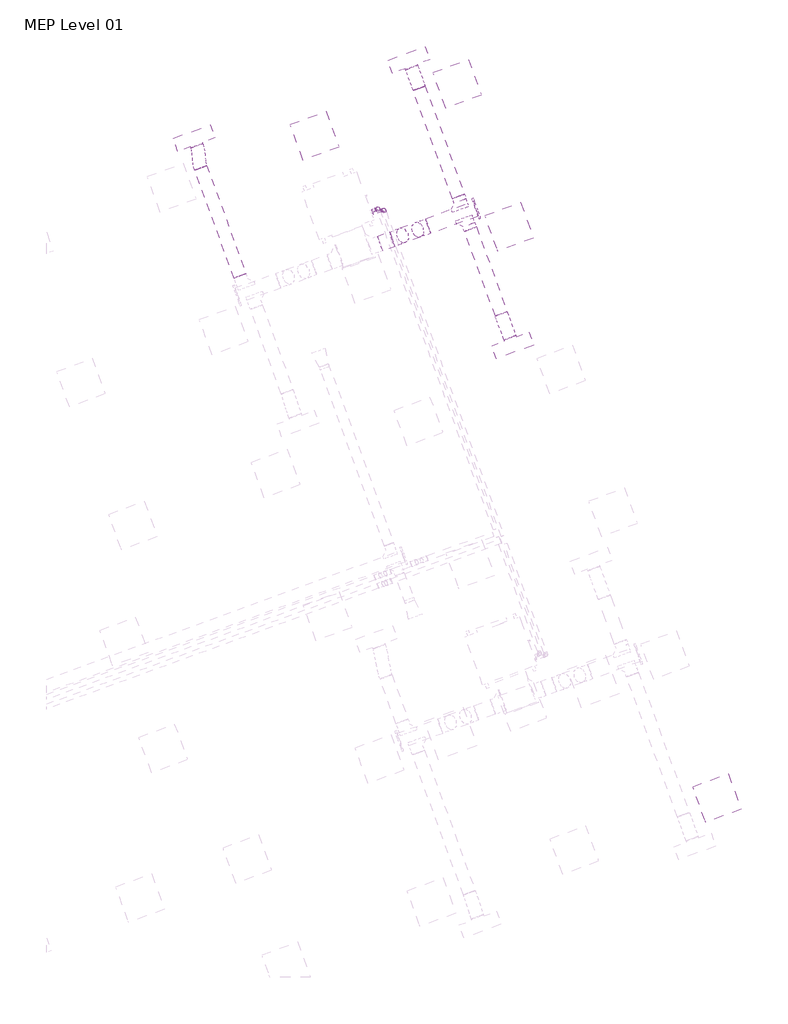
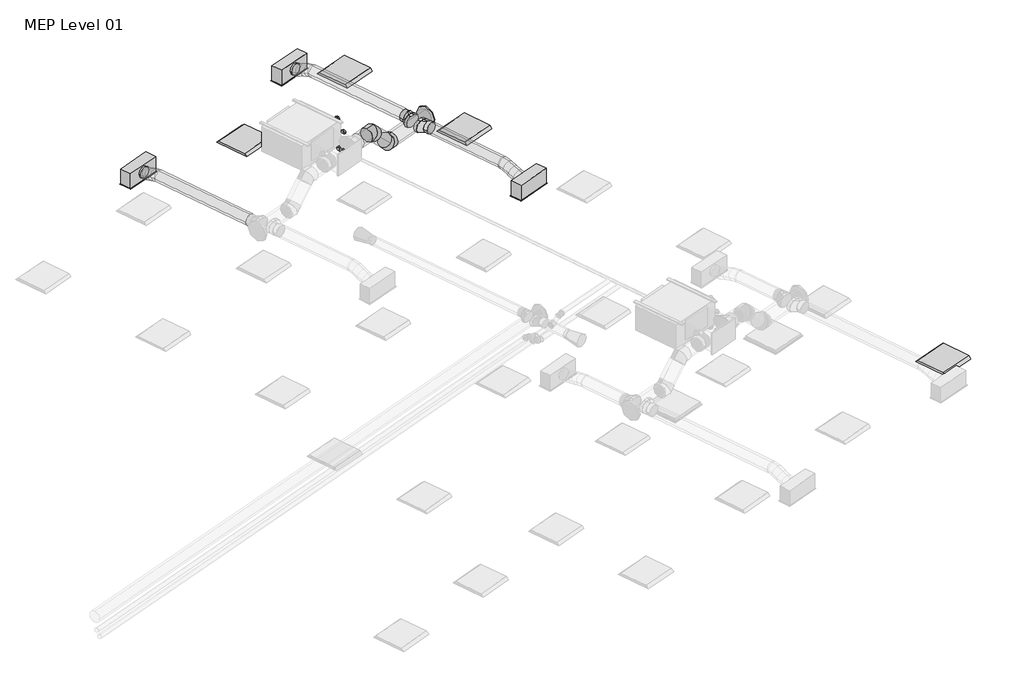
# One storey, part 29 of 29: 9 duct segments, 5 duct fittings, 4 light fixtures, 4 pipe fittings, 3 air terminals, 2 pipe segments.
"""IFC4 building model written with IfcOpenShell, lengths in millimetres."""

from ifc_helpers import new_model, si_unit, point, frame, frame_2d, origin, place, context, project, spatial, circle_curve, ellipse_curve, trimmed, segment, composite_curve, outline, extrude, transform, mapped, element, save
from ifc_brep_helpers import plane_surface, cylinder_surface, advanced_brep
from components import supply_diffuser_with_plenum_linear_slot_hosted_8c379eed, dw144_round_blank_end_standard_e3d0b58b, dw144_round_segmented_bend_slip_joint_standard_636bd9c1, dw144_round_shoe_branch_slip_joint_standard_15a2edd8, light_fixture_600x600_230_1c7c1157, light_fixture_600x600_230_b730b5ca, elbow_threaded_gmi_standard_b4aa7741

model = new_model("IFC4")

# Units and contexts
model_context = context("Model", 3, world=origin())
ifc_project = project(units=[si_unit("LENGTHUNIT", "METRE", prefix="MILLI")], contexts=[model_context])

# Site, building, storey
site = spatial("IfcSite", under=ifc_project)
building = spatial("IfcBuilding", under=site)
storey = spatial("IfcBuildingStorey", under=building, Name="MEP Level 01", Elevation=3900.0)

# Air terminals
placement = place(None, origin())
supply_diffuser_with_plenum_linear_slot_hosted_shape = supply_diffuser_with_plenum_linear_slot_hosted_8c379eed(model_context)
element("IfcAirTerminal", 1, ObjectType="Supply Diffuser with Plenum - Linear Slot - Hosted : 600mmx193.8mm-200 In Inlet  4-Slot", at=placement, inside=storey, context=model_context, shape_type="MappedRepresentation", body=[
    mapped(supply_diffuser_with_plenum_linear_slot_hosted_shape, transform((56030.8737895, 23328.4499742, 6700.0), x_axis=(-0.9396926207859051, -0.3420201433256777, 0.0), y_axis=(-0.3420201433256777, 0.9396926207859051, 0.0), z_axis=(0.0, 0.0, -1.0))),
])
element("IfcAirTerminal", 2, ObjectType="Supply Diffuser with Plenum - Linear Slot - Hosted : 600mmx193.8mm-200 In Inlet  4-Slot", at=placement, inside=storey, context=model_context, shape_type="MappedRepresentation", body=[
    mapped(supply_diffuser_with_plenum_linear_slot_hosted_shape, transform((59424.7616276, 24563.7241257, 6700.0), x_axis=(-0.9396926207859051, -0.3420201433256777, 0.0), y_axis=(-0.3420201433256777, 0.9396926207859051, 0.0), z_axis=(0.0, 0.0, -1.0))),
])
element("IfcAirTerminal", 3, ObjectType="Supply Diffuser with Plenum - Linear Slot - Hosted : 600mmx193.8mm-200 In Inlet  4-Slot", at=placement, inside=storey, context=model_context, shape_type="MappedRepresentation", body=[
    mapped(supply_diffuser_with_plenum_linear_slot_hosted_shape, transform((61066.4583156, 20053.199546, 6700.0), x_axis=(0.939692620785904, 0.342020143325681, 0.0), y_axis=(0.342020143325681, -0.939692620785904, 0.0), z_axis=(0.0, 0.0, -1.0))),
])

# Duct fittings
dw144_round_blank_end_standard_shape = dw144_round_blank_end_standard_e3d0b58b(model_context)
element("IfcDuctFitting", 4, ObjectType="DW144 Round Blank End : Standard", at=placement, inside=storey, context=model_context, shape_type="MappedRepresentation", body=[
    mapped(dw144_round_blank_end_standard_shape, transform((60480.0687344, 22212.6690304, 6972.2088531), x_axis=(0.9396926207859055, 0.3420201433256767, 0.0), y_axis=(-0.3420201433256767, 0.9396926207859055, 0.0), z_axis=(0.0, 0.0, 1.0))),
])
dw144_round_segmented_bend_slip_joint_standard_shape = dw144_round_segmented_bend_slip_joint_standard_636bd9c1(model_context)
element("IfcDuctFitting", 5, ObjectType="DW144 Round Segmented Bend - Slip Joint : Standard", at=placement, inside=storey, context=model_context, shape_type="MappedRepresentation", body=[
    mapped(dw144_round_segmented_bend_slip_joint_standard_shape, transform((59632.1186201, 21904.0404287, 6972.2088531), x_axis=(0.6644630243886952, 0.24184476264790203, -0.7071067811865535), y_axis=(0.6644630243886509, 0.2418447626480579, 0.7071067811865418), z_axis=(0.3420201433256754, -0.939692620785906, 0.0))),
])
element("IfcDuctFitting", 6, ObjectType="DW144 Round Segmented Bend - Slip Joint : Standard", at=placement, inside=storey, context=model_context, shape_type="MappedRepresentation", body=[
    mapped(dw144_round_segmented_bend_slip_joint_standard_shape, transform((59258.7165841, 21768.1332022, 7369.575), x_axis=(0.9396926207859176, 0.3420201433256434, 0.0), y_axis=(0.0, 0.0, -1.0), z_axis=(-0.3420201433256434, 0.9396926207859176, 0.0))),
])
dw144_round_shoe_branch_slip_joint_standard_shape = dw144_round_shoe_branch_slip_joint_standard_15a2edd8(model_context)
element("IfcDuctFitting", 7, ObjectType="DW144 Round Shoe Branch - Slip Joint : Standard", at=placement, inside=storey, context=model_context, shape_type="MappedRepresentation", body=[
    mapped(dw144_round_shoe_branch_slip_joint_standard_shape, transform((60261.0711331, 22265.9826437, 6972.2088531), x_axis=(-0.3420201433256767, 0.9396926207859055, 0.0), y_axis=(0.9396926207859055, 0.3420201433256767, 0.0), z_axis=(0.0, 0.0, -1.0))),
])
element("IfcDuctFitting", 8, ObjectType="DW144 Round Shoe Branch - Slip Joint : Standard", at=placement, inside=storey, context=model_context, shape_type="MappedRepresentation", body=[
    mapped(dw144_round_shoe_branch_slip_joint_standard_shape, transform((60346.5761689, 22031.0594885, 6972.2088531), x_axis=(0.3420201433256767, -0.9396926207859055, 0.0), y_axis=(0.9396926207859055, 0.3420201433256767, 0.0), z_axis=(0.0, 0.0, 1.0))),
])

# Duct segments
element("IfcDuctSegment", 9, ObjectType="DW144 Segmented Bend / Shoe Branch", at=placement, inside=storey, context=model_context, shape_type="SweptSolid", body=[
    extrude(outline(composite_curve([segment(trimmed(circle_curve(frame_2d((0.0, -125.0)), 125.0), [point((-125.0, -125.0))], [point((0.0, 0.0))], False, "CARTESIAN"), True, "CONTINUOUS"), segment(trimmed(circle_curve(frame_2d((0.0, -125.0)), 125.0), [point((0.0, 0.0))], [point((125.0, -125.0))], False, "CARTESIAN"), True, "CONTINUOUS"), segment(trimmed(circle_curve(frame_2d((0.0, -125.0)), 125.0), [point((125.0, -125.0))], [point((0.0, -250.0))], False, "CARTESIAN"), True, "CONTINUOUS"), segment(trimmed(circle_curve(frame_2d((0.0, -125.0)), 125.0), [point((0.0, -250.0))], [point((-125.0, -125.0))], False, "CARTESIAN"), True, "CONTINUOUS")], self_intersect=False)), frame((59729.4269771, 21939.4577742, 6847.2088531), z_axis=(0.9396926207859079, 0.3420201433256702, 0.0), x_axis=(0.3420201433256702, -0.9396926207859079, 0.0)), (0.0, 0.0, 1.0), 798.8162732),
])
element("IfcDuctSegment", 10, ObjectType="DW144 Segmented Bend / Shoe Branch", at=placement, inside=storey, context=model_context, shape_type="SweptSolid", body=[
    extrude(outline(composite_curve([segment(trimmed(circle_curve(frame_2d((0.0, 100.0)), 100.0), [point((100.0, 100.0))], [point((0.0, 0.0))], False, "CARTESIAN"), True, "CONTINUOUS"), segment(trimmed(circle_curve(frame_2d((0.0, 100.0)), 100.0), [point((0.0, 0.0))], [point((-100.0, 100.0))], False, "CARTESIAN"), True, "CONTINUOUS"), segment(trimmed(circle_curve(frame_2d((0.0, 100.0)), 100.0), [point((-100.0, 100.0))], [point((0.0, 200.0))], False, "CARTESIAN"), True, "CONTINUOUS"), segment(trimmed(circle_curve(frame_2d((0.0, 100.0)), 100.0), [point((0.0, 200.0))], [point((100.0, 100.0))], False, "CARTESIAN"), True, "CONTINUOUS")], self_intersect=False)), frame((60209.7681116, 22406.9365369, 7072.2088531), z_axis=(-0.3420201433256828, 0.9396926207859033, 0.0), x_axis=(0.9396926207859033, 0.3420201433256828, 0.0)), (0.0, 0.0, 1.0), 1816.9035933),
])
element("IfcDuctSegment", 11, ObjectType="DW144 Segmented Bend / Shoe Branch", at=placement, inside=storey, context=model_context, shape_type="SweptSolid", body=[
    extrude(outline(composite_curve([segment(trimmed(circle_curve(frame_2d((0.0, -100.0)), 100.0), [point((-99.9999999, -100.0))], [point((0.0, 0.0))], False, "CARTESIAN"), True, "CONTINUOUS"), segment(trimmed(circle_curve(frame_2d((0.0, -100.0)), 100.0), [point((0.0, 0.0))], [point((100.0, -100.0))], False, "CARTESIAN"), True, "CONTINUOUS"), segment(trimmed(circle_curve(frame_2d((0.0, -100.0)), 100.0), [point((100.0, -100.0))], [point((0.0, -200.0))], False, "CARTESIAN"), True, "CONTINUOUS"), segment(trimmed(circle_curve(frame_2d((0.0, -100.0)), 100.0), [point((0.0, -200.0))], [point((-99.9999999, -100.0))], False, "CARTESIAN"), True, "CONTINUOUS")], self_intersect=False)), frame((60884.6068274, 20552.8324034, 6872.2088531), z_axis=(-0.3420201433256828, 0.9396926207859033, 0.0), x_axis=(0.9396926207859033, 0.3420201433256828, 0.0)), (0.0, 0.0, 1.0), 1423.0964067),
])
element("IfcDuctSegment", 12, ObjectType="DW144 Segmented Bend / Shoe Branch", at=placement, inside=storey, context=model_context, shape_type="SweptSolid", body=[
    extrude(outline(composite_curve([segment(trimmed(circle_curve(frame_2d((0.0, -100.0)), 100.0), [point((-99.9999999, -100.0))], [point((0.0, 0.0))], False, "CARTESIAN"), True, "CONTINUOUS"), segment(trimmed(circle_curve(frame_2d((0.0, -100.0)), 100.0), [point((0.0, 0.0))], [point((100.0, -100.0))], False, "CARTESIAN"), True, "CONTINUOUS"), segment(trimmed(circle_curve(frame_2d((0.0, -100.0)), 100.0), [point((100.0, -100.0))], [point((0.0, -200.0))], False, "CARTESIAN"), True, "CONTINUOUS"), segment(trimmed(circle_curve(frame_2d((0.0, -100.0)), 100.0), [point((0.0, -200.0))], [point((-99.9999999, -100.0))], False, "CARTESIAN"), True, "CONTINUOUS")], self_intersect=False)), frame((56758.3225226, 21150.7130773, 6872.2088531), z_axis=(-0.3420201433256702, 0.9396926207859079, 0.0), x_axis=(0.9396926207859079, 0.3420201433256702, 0.0)), (0.0, 0.0, 1.0), 1816.9035933),
])
element("IfcDuctSegment", 13, ObjectType="DW144 Segmented Bend / Shoe Branch", at=placement, inside=storey, context=model_context, shape_type="SweptSolid", body=[
    extrude(outline(composite_curve([segment(trimmed(circle_curve(frame_2d((0.0, 125.0)), 125.0), [point((125.0, 125.0))], [point((0.0, 0.0))], False, "CARTESIAN"), True, "CONTINUOUS"), segment(trimmed(circle_curve(frame_2d((0.0, 125.0)), 125.0), [point((0.0, 0.0))], [point((-124.9999999, 125.0))], False, "CARTESIAN"), True, "CONTINUOUS"), segment(trimmed(circle_curve(frame_2d((0.0, 125.0)), 125.0), [point((-124.9999999, 125.0))], [point((0.0, 250.0))], False, "CARTESIAN"), True, "CONTINUOUS"), segment(trimmed(circle_curve(frame_2d((0.0, 125.0)), 125.0), [point((0.0, 250.0))], [point((125.0, 125.0))], False, "CARTESIAN"), True, "CONTINUOUS")], self_intersect=False)), frame((58972.1103348, 21663.8170585, 7494.575), z_axis=(0.9396926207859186, 0.3420201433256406, 0.0), x_axis=(0.3420201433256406, -0.9396926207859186, 0.0)), (0.0, 0.0, 1.0), 201.4466094),
])
element("IfcDuctSegment", 14, ObjectType="DW144 Segmented Bend / Shoe Branch", at=placement, inside=storey, context=model_context, shape_type="SweptSolid", body=[
    extrude(outline(composite_curve([segment(trimmed(circle_curve(frame_2d((0.0, -125.0)), 125.0), [point((57.2076922, -236.1408113))], [point((-111.1408114, -182.2076922))], False, "CARTESIAN"), True, "CONTINUOUS"), segment(trimmed(circle_curve(frame_2d((0.0, -125.0)), 125.0), [point((-111.1408114, -182.2076922))], [point((-57.2076923, -13.8591886))], False, "CARTESIAN"), True, "CONTINUOUS"), segment(trimmed(circle_curve(frame_2d((0.0, -125.0)), 125.0), [point((-57.2076923, -13.8591886))], [point((111.1408113, -67.7923077))], False, "CARTESIAN"), True, "CONTINUOUS"), segment(trimmed(circle_curve(frame_2d((0.0, -125.0)), 125.0), [point((111.1408113, -67.7923077))], [point((57.2076922, -236.1408113))], False, "CARTESIAN"), True, "CONTINUOUS")], self_intersect=False)), frame((59563.311221, 21997.2701645, 7085.884105), z_axis=(-0.6644630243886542, -0.2418447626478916, 0.7071067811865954), x_axis=(0.7473211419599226, -0.21503058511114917, 0.6287073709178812)), (0.0, 0.0, 1.0), 354.8538129),
])
element("IfcDuctSegment", 15, ObjectType="Flex - Round", at=placement, inside=storey, context=model_context, shape_type="AdvancedBrep", body=[
    advanced_brep(
    [(59494.3812221, 24080.0654218, 6972.2088531), (59588.3504842, 24114.2674361, 6872.2088531), (59682.3197463, 24148.4694505, 6972.2088531), (59588.3504842, 24114.2674361, 7072.2088531), (59487.4660199, 24099.0647838, 6972.2088531), (59585.9225792, 24120.9380504, 6872.2088531), (59675.4045441, 24167.4688125, 6972.2088531), (59576.9479848, 24145.5955459, 7072.2088531), (59374.878762, 24408.3957326, 6854.4), (59468.8480241, 24442.5977469, 6954.4), (59562.8172862, 24476.7997613, 6854.4), (59468.8480241, 24442.5977469, 6754.4), (59463.8859154, 24163.8505885, 6953.8012198), (59569.6809447, 24165.5615745, 6859.5299419), (59651.8244396, 24232.2546171, 6953.8012198), (59546.0294103, 24230.5436311, 7048.0724978), (59434.6299921, 24244.2305772, 6913.3044266), (59543.2343262, 24238.2230615, 6822.9218599), (59622.5685162, 24312.6346059, 6913.3044266), (59513.9641821, 24318.6421216, 7003.6869932), (59405.3740687, 24324.610566, 6872.8076333), (59511.169098, 24326.321552, 6778.5363553), (59593.3125929, 24393.0145946, 6872.8076333), (59487.5175636, 24391.3036086, 6967.0789113), (59381.7939643, 24389.3963706, 6854.4), (59480.2505236, 24411.2696371, 6754.4), (59569.7324884, 24457.8003992, 6854.4), (59471.2759291, 24435.9271327, 6954.4)],
    [
        (0, 1, circle_curve(frame((59588.3504842, 24114.2674361, 6972.2088531), z_axis=(0.34202014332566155, -0.9396926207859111, 0.0), x_axis=(-0.9396926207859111, -0.34202014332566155, 0.0)), 100.0)),
        (1, 2, circle_curve(frame((59588.3504842, 24114.2674361, 6972.2088531), z_axis=(0.34202014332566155, -0.9396926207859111, 0.0), x_axis=(-0.9396926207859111, -0.34202014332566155, 0.0)), 100.0)),
        (2, 3, circle_curve(frame((59588.3504842, 24114.2674361, 6972.2088531), z_axis=(0.34202014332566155, -0.9396926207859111, 0.0), x_axis=(-0.9396926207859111, -0.34202014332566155, 0.0)), 100.0)),
        (3, 0, circle_curve(frame((59588.3504842, 24114.2674361, 6972.2088531), z_axis=(0.34202014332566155, -0.9396926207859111, 0.0), x_axis=(-0.9396926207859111, -0.34202014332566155, 0.0)), 100.0)),
        (0, 4),
        (4, 5, ellipse_curve(frame((59581.435282, 24133.2667982, 6972.2088531), z_axis=(0.33911394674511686, -0.931707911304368, 0.13008496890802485), x_axis=(0.04449167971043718, -0.12223988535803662, -0.9915028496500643)), 100.8569971, 100.0)),
        (5, 1),
        (5, 6, ellipse_curve(frame((59581.435282, 24133.2667982, 6972.2088531), z_axis=(0.33911394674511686, -0.931707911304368, 0.13008496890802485), x_axis=(0.04449167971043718, -0.12223988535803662, -0.9915028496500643)), 100.8569971, 100.0)),
        (6, 2),
        (6, 7, ellipse_curve(frame((59581.435282, 24133.2667982, 6972.2088531), z_axis=(0.33911394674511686, -0.931707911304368, 0.13008496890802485), x_axis=(0.04449167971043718, -0.12223988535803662, -0.9915028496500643)), 100.8569971, 100.0)),
        (7, 3),
        (7, 4, ellipse_curve(frame((59581.435282, 24133.2667982, 6972.2088531), z_axis=(0.33911394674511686, -0.931707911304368, 0.13008496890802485), x_axis=(0.04449167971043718, -0.12223988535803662, -0.9915028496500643)), 100.8569971, 100.0)),
        (8, 9, circle_curve(frame((59468.8480241, 24442.5977469, 6854.4), z_axis=(-0.3420201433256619, 0.9396926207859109, 0.0), x_axis=(-0.9396926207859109, -0.3420201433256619, 0.0)), 100.0)),
        (9, 10, circle_curve(frame((59468.8480241, 24442.5977469, 6854.4), z_axis=(-0.3420201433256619, 0.9396926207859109, 0.0), x_axis=(-0.9396926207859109, -0.3420201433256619, 0.0)), 100.0)),
        (10, 11, circle_curve(frame((59468.8480241, 24442.5977469, 6854.4), z_axis=(-0.3420201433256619, 0.9396926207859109, 0.0), x_axis=(-0.9396926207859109, -0.3420201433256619, 0.0)), 100.0)),
        (11, 8, circle_curve(frame((59468.8480241, 24442.5977469, 6854.4), z_axis=(-0.3420201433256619, 0.9396926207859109, 0.0), x_axis=(-0.9396926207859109, -0.3420201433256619, 0.0)), 100.0)),
        (4, 12),
        (12, 13, ellipse_curve(frame((59557.8551775, 24198.0526028, 6953.8012198), z_axis=(0.32110349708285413, -0.8822246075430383, 0.3443432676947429), x_axis=(0.11777233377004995, -0.3235768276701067, -0.938843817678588)), 100.4120986, 100.0)),
        (13, 5),
        (13, 14, ellipse_curve(frame((59557.8551775, 24198.0526028, 6953.8012198), z_axis=(0.32110349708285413, -0.8822246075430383, 0.3443432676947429), x_axis=(0.11777233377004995, -0.3235768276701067, -0.938843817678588)), 100.4120986, 100.0)),
        (14, 6),
        (14, 15, ellipse_curve(frame((59557.8551775, 24198.0526028, 6953.8012198), z_axis=(0.32110349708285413, -0.8822246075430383, 0.3443432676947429), x_axis=(0.11777233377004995, -0.3235768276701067, -0.938843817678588)), 100.4120986, 100.0)),
        (15, 7),
        (15, 12, ellipse_curve(frame((59557.8551775, 24198.0526028, 6953.8012198), z_axis=(0.32110349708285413, -0.8822246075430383, 0.3443432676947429), x_axis=(0.11777233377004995, -0.3235768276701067, -0.938843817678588)), 100.4120986, 100.0)),
        (12, 16),
        (16, 17, circle_curve(frame((59528.5992542, 24278.4325915, 6913.3044266), z_axis=(0.3091265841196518, -0.8493183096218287, 0.42790088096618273), x_axis=(-0.9396926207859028, -0.3420201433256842, 0.0)), 100.0)),
        (17, 13),
        (17, 18, circle_curve(frame((59528.5992542, 24278.4325915, 6913.3044266), z_axis=(0.3091265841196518, -0.8493183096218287, 0.42790088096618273), x_axis=(-0.9396926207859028, -0.3420201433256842, 0.0)), 100.0)),
        (18, 14),
        (18, 19, circle_curve(frame((59528.5992542, 24278.4325915, 6913.3044266), z_axis=(0.3091265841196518, -0.8493183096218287, 0.42790088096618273), x_axis=(-0.9396926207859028, -0.3420201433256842, 0.0)), 100.0)),
        (19, 15),
        (19, 16, circle_curve(frame((59528.5992542, 24278.4325915, 6913.3044266), z_axis=(0.3091265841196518, -0.8493183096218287, 0.42790088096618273), x_axis=(-0.9396926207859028, -0.3420201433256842, 0.0)), 100.0)),
        (16, 20),
        (20, 21, ellipse_curve(frame((59499.3433308, 24358.8125803, 6872.8076333), z_axis=(0.3211034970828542, -0.8822246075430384, 0.3443432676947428), x_axis=(-0.11777233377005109, 0.3235768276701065, 0.9388438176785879)), 100.4120986, 100.0)),
        (21, 17),
        (21, 22, ellipse_curve(frame((59499.3433308, 24358.8125803, 6872.8076333), z_axis=(0.3211034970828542, -0.8822246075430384, 0.3443432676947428), x_axis=(-0.11777233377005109, 0.3235768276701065, 0.9388438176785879)), 100.4120986, 100.0)),
        (22, 18),
        (22, 23, ellipse_curve(frame((59499.3433308, 24358.8125803, 6872.8076333), z_axis=(0.3211034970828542, -0.8822246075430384, 0.3443432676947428), x_axis=(-0.11777233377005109, 0.3235768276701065, 0.9388438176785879)), 100.4120986, 100.0)),
        (23, 19),
        (23, 20, ellipse_curve(frame((59499.3433308, 24358.8125803, 6872.8076333), z_axis=(0.3211034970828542, -0.8822246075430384, 0.3443432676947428), x_axis=(-0.11777233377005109, 0.3235768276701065, 0.9388438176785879)), 100.4120986, 100.0)),
        (20, 24),
        (24, 25, ellipse_curve(frame((59475.7632263, 24423.5983849, 6854.4), z_axis=(0.33911394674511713, -0.931707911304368, 0.1300849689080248), x_axis=(-0.04449167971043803, 0.12223988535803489, 0.9915028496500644)), 100.8569971, 100.0)),
        (25, 21),
        (25, 26, ellipse_curve(frame((59475.7632263, 24423.5983849, 6854.4), z_axis=(0.33911394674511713, -0.931707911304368, 0.1300849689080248), x_axis=(-0.04449167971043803, 0.12223988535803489, 0.9915028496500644)), 100.8569971, 100.0)),
        (26, 22),
        (26, 27, ellipse_curve(frame((59475.7632263, 24423.5983849, 6854.4), z_axis=(0.33911394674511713, -0.931707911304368, 0.1300849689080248), x_axis=(-0.04449167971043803, 0.12223988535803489, 0.9915028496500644)), 100.8569971, 100.0)),
        (27, 23),
        (27, 24, ellipse_curve(frame((59475.7632263, 24423.5983849, 6854.4), z_axis=(0.33911394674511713, -0.931707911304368, 0.1300849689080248), x_axis=(-0.04449167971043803, 0.12223988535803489, 0.9915028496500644)), 100.8569971, 100.0)),
        (24, 8),
        (11, 25),
        (10, 26),
        (9, 27),
    ],
    [
        plane_surface(frame((59588.3504842, 24114.2674361, 7072.2088531), z_axis=(0.3420201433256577, -0.9396926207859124, 0.0), x_axis=(0.9396926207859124, 0.3420201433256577, 0.0))),
        cylinder_surface(frame((59588.3504842, 24114.2674361, 6972.2088531), z_axis=(0.34202014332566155, -0.9396926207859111, 0.0), x_axis=(-0.9396926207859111, -0.34202014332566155, 0.0)), 100.0),
        plane_surface(frame((59468.8480241, 24442.5977469, 6954.4), z_axis=(-0.3420201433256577, 0.9396926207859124, 0.0), x_axis=(0.9396926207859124, 0.3420201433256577, 0.0))),
        cylinder_surface(frame((59581.435282, 24133.2667982, 6972.2088531), z_axis=(0.3304447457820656, -0.90788947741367, 0.25795923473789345), x_axis=(-0.939692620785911, -0.34202014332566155, 0.0)), 100.0),
        cylinder_surface(frame((59557.8551775, 24198.0526028, 6953.8012198), z_axis=(0.3091265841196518, -0.8493183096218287, 0.42790088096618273), x_axis=(-0.9396926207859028, -0.3420201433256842, 0.0)), 100.0),
        cylinder_surface(frame((59528.5992542, 24278.4325915, 6913.3044266), z_axis=(0.3091265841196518, -0.8493183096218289, 0.42790088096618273), x_axis=(-0.9396926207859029, -0.3420201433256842, 0.0)), 100.0),
        cylinder_surface(frame((59499.3433308, 24358.8125803, 6872.8076333), z_axis=(0.3304447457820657, -0.9078894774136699, 0.25795923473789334), x_axis=(-0.939692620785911, -0.34202014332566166, 0.0)), 100.0),
        cylinder_surface(frame((59475.7632263, 24423.5983849, 6854.4), z_axis=(0.3420201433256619, -0.9396926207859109, 0.0), x_axis=(-0.9396926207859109, -0.3420201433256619, 0.0)), 100.0),
    ],
    [
        (0, [[1, 2, 3, 4]]),
        (1, [[-1, 5, 6, 7]]),
        (1, [[-2, -7, 8, 9]]),
        (1, [[-3, -9, 10, 11]]),
        (1, [[-4, -11, 12, -5]]),
        (2, [[13, 14, 15, 16]]),
        (3, [[-6, 17, 18, 19]]),
        (3, [[-8, -19, 20, 21]]),
        (3, [[-10, -21, 22, 23]]),
        (3, [[-12, -23, 24, -17]]),
        (4, [[-18, 25, 26, 27]]),
        (4, [[-20, -27, 28, 29]]),
        (4, [[-22, -29, 30, 31]]),
        (4, [[-24, -31, 32, -25]]),
        (5, [[-26, 33, 34, 35]]),
        (5, [[-28, -35, 36, 37]]),
        (5, [[-30, -37, 38, 39]]),
        (5, [[-32, -39, 40, -33]]),
        (6, [[-34, 41, 42, 43]]),
        (6, [[-36, -43, 44, 45]]),
        (6, [[-38, -45, 46, 47]]),
        (6, [[-40, -47, 48, -41]]),
        (7, [[-42, 49, -16, 50]]),
        (7, [[-44, -50, -15, 51]]),
        (7, [[-46, -51, -14, 52]]),
        (7, [[-48, -52, -13, -49]]),
    ],
),
])
element("IfcDuctSegment", 16, ObjectType="Flex - Round", at=placement, inside=storey, context=model_context, shape_type="AdvancedBrep", body=[
    advanced_brep(
    [(60978.5760895, 20587.0344177, 6972.2088531), (60884.6068274, 20552.8324034, 6872.2088531), (60790.6375654, 20518.630389, 6972.2088531), (60884.6068274, 20552.8324034, 7072.2088531), (60984.6341083, 20570.390148, 6972.2088531), (60886.9856485, 20546.2966462, 6872.2088531), (60796.6955841, 20501.9861193, 6972.2088531), (60894.3440439, 20526.0796211, 7072.2088531), (61116.3411812, 20208.5279391, 6854.4), (61022.3719191, 20174.3259248, 6954.4), (60928.402657, 20140.1239105, 6854.4), (61022.3719191, 20174.3259248, 6754.4), (61013.5584383, 20490.9212042, 6953.8012198), (60909.4076043, 20484.6928288, 6857.9393734), (60825.6199142, 20422.5171755, 6953.8012198), (60929.7707482, 20428.7455509, 7049.6630662), (61047.4586353, 20397.7811784, 6913.3044266), (60940.5534043, 20399.1204467, 6820.7329518), (60859.5201112, 20329.3771497, 6913.3044266), (60966.4253422, 20328.0378815, 7005.8759013), (61081.3588323, 20304.6411526, 6872.8076333), (60977.2079983, 20298.4127773, 6776.9457869), (60893.4203082, 20236.237124, 6872.8076333), (60997.5711422, 20242.4654993, 6968.6694797), (61110.2831624, 20225.1722089, 6854.4), (61012.6347027, 20201.0787071, 6754.4), (60922.3446383, 20156.7681802, 6854.4), (61019.993098, 20180.861682, 6954.4)],
    [
        (0, 1, circle_curve(frame((60884.6068274, 20552.8324034, 6972.2088531), z_axis=(-0.3420201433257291, 0.9396926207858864, 0.0), x_axis=(0.9396926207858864, 0.3420201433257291, 0.0)), 100.0)),
        (1, 2, circle_curve(frame((60884.6068274, 20552.8324034, 6972.2088531), z_axis=(-0.3420201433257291, 0.9396926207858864, 0.0), x_axis=(0.9396926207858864, 0.3420201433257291, 0.0)), 100.0)),
        (2, 3, circle_curve(frame((60884.6068274, 20552.8324034, 6972.2088531), z_axis=(-0.3420201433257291, 0.9396926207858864, 0.0), x_axis=(0.9396926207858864, 0.3420201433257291, 0.0)), 100.0)),
        (3, 0, circle_curve(frame((60884.6068274, 20552.8324034, 6972.2088531), z_axis=(-0.3420201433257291, 0.9396926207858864, 0.0), x_axis=(0.9396926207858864, 0.3420201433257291, 0.0)), 100.0)),
        (0, 4),
        (4, 5, ellipse_curve(frame((60890.6648462, 20536.1881336, 6972.2088531), z_axis=(-0.34005825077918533, 0.9343023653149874, 0.1069554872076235), x_axis=(-0.03658093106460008, 0.10050528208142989, -0.9942638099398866)), 100.5769284, 100.0)),
        (5, 1),
        (5, 6, ellipse_curve(frame((60890.6648462, 20536.1881336, 6972.2088531), z_axis=(-0.34005825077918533, 0.9343023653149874, 0.1069554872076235), x_axis=(-0.03658093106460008, 0.10050528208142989, -0.9942638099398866)), 100.5769284, 100.0)),
        (6, 2),
        (6, 7, ellipse_curve(frame((60890.6648462, 20536.1881336, 6972.2088531), z_axis=(-0.34005825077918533, 0.9343023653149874, 0.1069554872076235), x_axis=(-0.03658093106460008, 0.10050528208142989, -0.9942638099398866)), 100.5769284, 100.0)),
        (7, 3),
        (7, 4, ellipse_curve(frame((60890.6648462, 20536.1881336, 6972.2088531), z_axis=(-0.34005825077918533, 0.9343023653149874, 0.1069554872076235), x_axis=(-0.03658093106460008, 0.10050528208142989, -0.9942638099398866)), 100.5769284, 100.0)),
        (8, 9, circle_curve(frame((61022.3719191, 20174.3259248, 6854.4), z_axis=(0.3420201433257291, -0.9396926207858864, 0.0), x_axis=(0.9396926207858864, 0.3420201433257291, 0.0)), 100.0)),
        (9, 10, circle_curve(frame((61022.3719191, 20174.3259248, 6854.4), z_axis=(0.3420201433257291, -0.9396926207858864, 0.0), x_axis=(0.9396926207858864, 0.3420201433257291, 0.0)), 100.0)),
        (10, 11, circle_curve(frame((61022.3719191, 20174.3259248, 6854.4), z_axis=(0.3420201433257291, -0.9396926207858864, 0.0), x_axis=(0.9396926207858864, 0.3420201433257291, 0.0)), 100.0)),
        (11, 8, circle_curve(frame((61022.3719191, 20174.3259248, 6854.4), z_axis=(0.3420201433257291, -0.9396926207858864, 0.0), x_axis=(0.9396926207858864, 0.3420201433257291, 0.0)), 100.0)),
        (4, 12),
        (12, 13, ellipse_curve(frame((60919.5891763, 20456.7191898, 6953.8012198), z_axis=(-0.32663313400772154, 0.8974171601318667, 0.2965691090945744), x_axis=(-0.10143260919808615, 0.2786838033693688, -0.9550113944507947)), 100.3776991, 100.0)),
        (13, 5),
        (13, 14, ellipse_curve(frame((60919.5891763, 20456.7191898, 6953.8012198), z_axis=(-0.32663313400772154, 0.8974171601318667, 0.2965691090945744), x_axis=(-0.10143260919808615, 0.2786838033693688, -0.9550113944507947)), 100.3776991, 100.0)),
        (14, 6),
        (14, 15, ellipse_curve(frame((60919.5891763, 20456.7191898, 6953.8012198), z_axis=(-0.32663313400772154, 0.8974171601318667, 0.2965691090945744), x_axis=(-0.10143260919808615, 0.2786838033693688, -0.9550113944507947)), 100.3776991, 100.0)),
        (15, 7),
        (15, 12, ellipse_curve(frame((60919.5891763, 20456.7191898, 6953.8012198), z_axis=(-0.32663313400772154, 0.8974171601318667, 0.2965691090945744), x_axis=(-0.10143260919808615, 0.2786838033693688, -0.9550113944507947)), 100.3776991, 100.0)),
        (12, 16),
        (16, 17, circle_curve(frame((60953.4893733, 20363.5791641, 6913.3044266), z_axis=(-0.3166130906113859, 0.8698873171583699, 0.3782224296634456), x_axis=(0.939692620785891, 0.34202014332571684, 0.0)), 100.0)),
        (17, 13),
        (17, 18, circle_curve(frame((60953.4893733, 20363.5791641, 6913.3044266), z_axis=(-0.3166130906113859, 0.8698873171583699, 0.3782224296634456), x_axis=(0.939692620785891, 0.34202014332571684, 0.0)), 100.0)),
        (18, 14),
        (18, 19, circle_curve(frame((60953.4893733, 20363.5791641, 6913.3044266), z_axis=(-0.3166130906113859, 0.8698873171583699, 0.3782224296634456), x_axis=(0.939692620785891, 0.34202014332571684, 0.0)), 100.0)),
        (19, 15),
        (19, 16, circle_curve(frame((60953.4893733, 20363.5791641, 6913.3044266), z_axis=(-0.3166130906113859, 0.8698873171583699, 0.3782224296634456), x_axis=(0.939692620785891, 0.34202014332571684, 0.0)), 100.0)),
        (16, 20),
        (20, 21, ellipse_curve(frame((60987.3895703, 20270.4391383, 6872.8076333), z_axis=(-0.3266331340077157, 0.8974171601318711, 0.2965691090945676), x_axis=(0.10143260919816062, -0.2786838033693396, 0.9550113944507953)), 100.3776991, 100.0)),
        (21, 17),
        (21, 22, ellipse_curve(frame((60987.3895703, 20270.4391383, 6872.8076333), z_axis=(-0.3266331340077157, 0.8974171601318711, 0.2965691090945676), x_axis=(0.10143260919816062, -0.2786838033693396, 0.9550113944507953)), 100.3776991, 100.0)),
        (22, 18),
        (22, 23, ellipse_curve(frame((60987.3895703, 20270.4391383, 6872.8076333), z_axis=(-0.3266331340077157, 0.8974171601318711, 0.2965691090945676), x_axis=(0.10143260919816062, -0.2786838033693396, 0.9550113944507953)), 100.3776991, 100.0)),
        (23, 19),
        (23, 20, ellipse_curve(frame((60987.3895703, 20270.4391383, 6872.8076333), z_axis=(-0.3266331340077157, 0.8974171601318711, 0.2965691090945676), x_axis=(0.10143260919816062, -0.2786838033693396, 0.9550113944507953)), 100.3776991, 100.0)),
        (20, 24),
        (24, 25, ellipse_curve(frame((61016.3139004, 20190.9701945, 6854.4), z_axis=(-0.34005825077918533, 0.9343023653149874, 0.10695548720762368), x_axis=(0.03658093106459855, -0.10050528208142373, 0.9942638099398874)), 100.5769284, 100.0)),
        (25, 21),
        (25, 26, ellipse_curve(frame((61016.3139004, 20190.9701945, 6854.4), z_axis=(-0.34005825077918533, 0.9343023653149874, 0.10695548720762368), x_axis=(0.03658093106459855, -0.10050528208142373, 0.9942638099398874)), 100.5769284, 100.0)),
        (26, 22),
        (26, 27, ellipse_curve(frame((61016.3139004, 20190.9701945, 6854.4), z_axis=(-0.34005825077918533, 0.9343023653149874, 0.10695548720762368), x_axis=(0.03658093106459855, -0.10050528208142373, 0.9942638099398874)), 100.5769284, 100.0)),
        (27, 23),
        (27, 24, ellipse_curve(frame((61016.3139004, 20190.9701945, 6854.4), z_axis=(-0.34005825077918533, 0.9343023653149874, 0.10695548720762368), x_axis=(0.03658093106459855, -0.10050528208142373, 0.9942638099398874)), 100.5769284, 100.0)),
        (24, 8),
        (11, 25),
        (10, 26),
        (9, 27),
    ],
    [
        plane_surface(frame((60884.6068274, 20552.8324034, 6872.2088531), z_axis=(-0.3420201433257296, 0.9396926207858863, 0.0), x_axis=(0.9396926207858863, 0.3420201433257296, 0.0))),
        cylinder_surface(frame((60884.6068274, 20552.8324034, 6972.2088531), z_axis=(-0.3420201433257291, 0.9396926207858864, 0.0), x_axis=(0.9396926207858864, 0.3420201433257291, 0.0)), 100.0),
        plane_surface(frame((61022.3719191, 20174.3259248, 6754.4), z_axis=(0.3420201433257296, -0.9396926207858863, 0.0), x_axis=(0.9396926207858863, 0.3420201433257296, 0.0))),
        cylinder_surface(frame((60890.6648462, 20536.1881336, 6972.2088531), z_axis=(-0.3341950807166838, 0.9181934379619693, 0.21268394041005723), x_axis=(0.9396926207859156, 0.342020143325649, 0.0)), 100.0),
        cylinder_surface(frame((60919.5891763, 20456.7191898, 6953.8012198), z_axis=(-0.31661309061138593, 0.8698873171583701, 0.3782224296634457), x_axis=(0.939692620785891, 0.34202014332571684, 0.0)), 100.0),
        cylinder_surface(frame((60953.4893733, 20363.5791641, 6913.3044266), z_axis=(-0.3166130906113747, 0.86988731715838, 0.3782224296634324), x_axis=(0.9396926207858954, 0.34202014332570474, 0.0)), 100.0),
        cylinder_surface(frame((60987.3895703, 20270.4391383, 6872.8076333), z_axis=(-0.3341950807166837, 0.9181934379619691, 0.2126839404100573), x_axis=(0.9396926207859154, 0.3420201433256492, 0.0)), 100.0),
        cylinder_surface(frame((61016.3139004, 20190.9701945, 6854.4), z_axis=(-0.3420201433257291, 0.9396926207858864, 0.0), x_axis=(0.9396926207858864, 0.3420201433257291, 0.0)), 100.0),
    ],
    [
        (0, [[1, 2, 3, 4]]),
        (1, [[-1, 5, 6, 7]]),
        (1, [[-2, -7, 8, 9]]),
        (1, [[-3, -9, 10, 11]]),
        (1, [[-4, -11, 12, -5]]),
        (2, [[13, 14, 15, 16]]),
        (3, [[-6, 17, 18, 19]]),
        (3, [[-8, -19, 20, 21]]),
        (3, [[-10, -21, 22, 23]]),
        (3, [[-12, -23, 24, -17]]),
        (4, [[-18, 25, 26, 27]]),
        (4, [[-20, -27, 28, 29]]),
        (4, [[-22, -29, 30, 31]]),
        (4, [[-24, -31, 32, -25]]),
        (5, [[-26, 33, 34, 35]]),
        (5, [[-28, -35, 36, 37]]),
        (5, [[-30, -37, 38, 39]]),
        (5, [[-32, -39, 40, -33]]),
        (6, [[-34, 41, 42, 43]]),
        (6, [[-36, -43, 44, 45]]),
        (6, [[-38, -45, 46, 47]]),
        (6, [[-40, -47, 48, -41]]),
        (7, [[-42, 49, -16, 50]]),
        (7, [[-44, -50, -15, 51]]),
        (7, [[-46, -51, -14, 52]]),
        (7, [[-48, -52, -13, -49]]),
    ],
),
])
element("IfcDuctSegment", 17, ObjectType="Flex - Round", at=placement, inside=storey, context=model_context, shape_type="AdvancedBrep", body=[
    advanced_brep(
    [(56042.9356332, 22823.8419622, 6972.2088531), (56136.9048953, 22858.0439766, 6872.2088531), (56230.8741573, 22892.2459909, 6972.2088531), (56136.9048953, 22858.0439766, 7072.2088531), (56035.3051782, 22844.8064651, 6972.2088531), (56134.9205882, 22863.4958155, 6872.2088531), (56227.1064859, 22902.5975832, 6972.2088531), (56127.4910759, 22883.9082328, 7072.2088531), (55980.9909239, 23173.1215811, 6854.4), (56074.960186, 23207.3235954, 6954.4), (56168.9294481, 23241.5256098, 6854.4), (56074.960186, 23207.3235954, 6754.4), (56019.9356201, 22909.0271134, 6957.7411781), (56126.4316394, 22898.9663078, 6864.2180345), (56216.4442619, 22947.1489575, 6962.1722867), (56109.9482426, 22957.209763, 7055.6954303), (56009.9161011, 22984.7896454, 6926.0114711), (56118.732048, 22957.1867215, 6839.8350497), (56208.0119096, 23010.9101379, 6935.4688025), (56099.1959627, 23038.5130618, 7021.645224), (56003.8531716, 23054.4574341, 6891.1400506), (56112.6691186, 23026.8545102, 6804.9636291), (56201.9489802, 23080.5779266, 6900.597382), (56093.1330333, 23108.1808505, 6986.7738035), (55995.4208194, 23118.2186145, 6864.4365665), (56101.9168387, 23108.157809, 6770.9134228), (56191.9294612, 23156.3404586, 6868.867675), (56085.4334419, 23166.4012642, 6962.3908187), (55984.7585954, 23162.7699888, 6854.4), (56084.3740054, 23181.4593392, 6754.4), (56176.5599031, 23220.5611069, 6854.4), (56076.9444931, 23201.8717565, 6954.4)],
    [
        (0, 1, circle_curve(frame((56136.9048953, 22858.0439766, 6972.2088531), z_axis=(0.3420201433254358, -0.9396926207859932, 0.0), x_axis=(-0.9396926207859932, -0.3420201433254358, 0.0)), 100.0)),
        (1, 2, circle_curve(frame((56136.9048953, 22858.0439766, 6972.2088531), z_axis=(0.3420201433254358, -0.9396926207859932, 0.0), x_axis=(-0.9396926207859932, -0.3420201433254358, 0.0)), 100.0)),
        (2, 3, circle_curve(frame((56136.9048953, 22858.0439766, 6972.2088531), z_axis=(0.3420201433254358, -0.9396926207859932, 0.0), x_axis=(-0.9396926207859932, -0.3420201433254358, 0.0)), 100.0)),
        (3, 0, circle_curve(frame((56136.9048953, 22858.0439766, 6972.2088531), z_axis=(0.3420201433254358, -0.9396926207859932, 0.0), x_axis=(-0.9396926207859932, -0.3420201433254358, 0.0)), 100.0)),
        (0, 4),
        (4, 5, ellipse_curve(frame((56131.205832, 22873.7020241, 6972.2088531), z_axis=(0.2868145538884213, -0.9519007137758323, 0.10780743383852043), x_axis=(0.471826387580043, 0.0424244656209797, -0.8806702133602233)), 100.746488, 100.0)),
        (5, 1),
        (5, 6, ellipse_curve(frame((56131.205832, 22873.7020241, 6972.2088531), z_axis=(0.2868145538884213, -0.9519007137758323, 0.10780743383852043), x_axis=(0.471826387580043, 0.0424244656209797, -0.8806702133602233)), 100.746488, 100.0)),
        (6, 2),
        (6, 7, ellipse_curve(frame((56131.205832, 22873.7020241, 6972.2088531), z_axis=(0.2868145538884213, -0.9519007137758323, 0.10780743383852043), x_axis=(0.471826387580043, 0.0424244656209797, -0.8806702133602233)), 100.746488, 100.0)),
        (7, 3),
        (7, 4, ellipse_curve(frame((56131.205832, 22873.7020241, 6972.2088531), z_axis=(0.2868145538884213, -0.9519007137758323, 0.10780743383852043), x_axis=(0.471826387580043, 0.0424244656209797, -0.8806702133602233)), 100.746488, 100.0)),
        (8, 9, circle_curve(frame((56074.960186, 23207.3235954, 6854.4), z_axis=(-0.34202014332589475, 0.9396926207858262, 0.0), x_axis=(-0.9396926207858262, -0.34202014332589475, 0.0)), 100.0)),
        (9, 10, circle_curve(frame((56074.960186, 23207.3235954, 6854.4), z_axis=(-0.34202014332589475, 0.9396926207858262, 0.0), x_axis=(-0.9396926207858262, -0.34202014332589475, 0.0)), 100.0)),
        (10, 11, circle_curve(frame((56074.960186, 23207.3235954, 6854.4), z_axis=(-0.34202014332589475, 0.9396926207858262, 0.0), x_axis=(-0.9396926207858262, -0.34202014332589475, 0.0)), 100.0)),
        (11, 8, circle_curve(frame((56074.960186, 23207.3235954, 6854.4), z_axis=(-0.34202014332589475, 0.9396926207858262, 0.0), x_axis=(-0.9396926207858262, -0.34202014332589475, 0.0)), 100.0)),
        (4, 12),
        (12, 13, ellipse_curve(frame((56118.189941, 22928.0880354, 6959.9567324), z_axis=(0.17512607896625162, -0.937635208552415, 0.3002849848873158), x_axis=(0.5236540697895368, -0.16957305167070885, -0.8348840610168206)), 100.5188435, 100.0)),
        (13, 5),
        (13, 14, ellipse_curve(frame((56118.189941, 22928.0880354, 6959.9567324), z_axis=(0.17512607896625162, -0.937635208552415, 0.3002849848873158), x_axis=(0.5236540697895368, -0.16957305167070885, -0.8348840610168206)), 100.5188435, 100.0)),
        (14, 6),
        (14, 15, ellipse_curve(frame((56118.189941, 22928.0880354, 6959.9567324), z_axis=(0.17512607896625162, -0.937635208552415, 0.3002849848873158), x_axis=(0.5236540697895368, -0.16957305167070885, -0.8348840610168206)), 100.5188435, 100.0)),
        (15, 7),
        (15, 12, ellipse_curve(frame((56118.189941, 22928.0880354, 6959.9567324), z_axis=(0.17512607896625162, -0.937635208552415, 0.3002849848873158), x_axis=(0.5236540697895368, -0.16957305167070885, -0.8348840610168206)), 100.5188435, 100.0)),
        (12, 16),
        (16, 17, ellipse_curve(frame((56108.9640053, 22997.8498917, 6930.7401368), z_axis=(0.09941622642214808, -0.9042889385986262, 0.4151842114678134), x_axis=(0.5431382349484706, -0.3002937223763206, -0.7841074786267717)), 100.0802707, 100.0)),
        (17, 13),
        (17, 18, ellipse_curve(frame((56108.9640053, 22997.8498917, 6930.7401368), z_axis=(0.09941622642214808, -0.9042889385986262, 0.4151842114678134), x_axis=(0.5431382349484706, -0.3002937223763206, -0.7841074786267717)), 100.0802707, 100.0)),
        (18, 14),
        (18, 19, ellipse_curve(frame((56108.9640053, 22997.8498917, 6930.7401368), z_axis=(0.09941622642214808, -0.9042889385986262, 0.4151842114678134), x_axis=(0.5431382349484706, -0.3002937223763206, -0.7841074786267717)), 100.0802707, 100.0)),
        (19, 15),
        (19, 16, ellipse_curve(frame((56108.9640053, 22997.8498917, 6930.7401368), z_axis=(0.09941622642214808, -0.9042889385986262, 0.4151842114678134), x_axis=(0.5431382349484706, -0.3002937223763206, -0.7841074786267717)), 100.0802707, 100.0)),
        (16, 20),
        (20, 21, ellipse_curve(frame((56102.9010759, 23067.5176803, 6895.8687163), z_axis=(0.09941622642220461, -0.9042889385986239, 0.4151842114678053), x_axis=(-0.5431382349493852, 0.30029372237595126, 0.7841074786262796)), 100.0802707, 100.0)),
        (21, 17),
        (21, 22, ellipse_curve(frame((56102.9010759, 23067.5176803, 6895.8687163), z_axis=(0.09941622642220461, -0.9042889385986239, 0.4151842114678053), x_axis=(-0.5431382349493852, 0.30029372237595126, 0.7841074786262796)), 100.0802707, 100.0)),
        (22, 18),
        (22, 23, ellipse_curve(frame((56102.9010759, 23067.5176803, 6895.8687163), z_axis=(0.09941622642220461, -0.9042889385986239, 0.4151842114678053), x_axis=(-0.5431382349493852, 0.30029372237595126, 0.7841074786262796)), 100.0802707, 100.0)),
        (23, 19),
        (23, 20, ellipse_curve(frame((56102.9010759, 23067.5176803, 6895.8687163), z_axis=(0.09941622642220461, -0.9042889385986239, 0.4151842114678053), x_axis=(-0.5431382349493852, 0.30029372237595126, 0.7841074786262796)), 100.0802707, 100.0)),
        (20, 24),
        (24, 25, ellipse_curve(frame((56093.6751403, 23137.2795366, 6866.6521207), z_axis=(0.17512607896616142, -0.9376352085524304, 0.30028498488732), x_axis=(-0.5236540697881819, 0.1695730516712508, 0.8348840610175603)), 100.5188435, 100.0)),
        (25, 21),
        (25, 26, ellipse_curve(frame((56093.6751403, 23137.2795366, 6866.6521207), z_axis=(0.17512607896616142, -0.9376352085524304, 0.30028498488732), x_axis=(-0.5236540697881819, 0.1695730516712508, 0.8348840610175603)), 100.5188435, 100.0)),
        (26, 22),
        (26, 27, ellipse_curve(frame((56093.6751403, 23137.2795366, 6866.6521207), z_axis=(0.17512607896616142, -0.9376352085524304, 0.30028498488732), x_axis=(-0.5236540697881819, 0.1695730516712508, 0.8348840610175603)), 100.5188435, 100.0)),
        (27, 23),
        (27, 24, ellipse_curve(frame((56093.6751403, 23137.2795366, 6866.6521207), z_axis=(0.17512607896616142, -0.9376352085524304, 0.30028498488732), x_axis=(-0.5236540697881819, 0.1695730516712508, 0.8348840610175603)), 100.5188435, 100.0)),
        (24, 28),
        (28, 29, ellipse_curve(frame((56080.6592492, 23191.6655479, 6854.4), z_axis=(0.28681455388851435, -0.9519007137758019, 0.10780743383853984), x_axis=(-0.47182638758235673, -0.042424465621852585, 0.8806702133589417)), 100.746488, 100.0)),
        (29, 25),
        (29, 30, ellipse_curve(frame((56080.6592492, 23191.6655479, 6854.4), z_axis=(0.28681455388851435, -0.9519007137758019, 0.10780743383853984), x_axis=(-0.47182638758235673, -0.042424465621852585, 0.8806702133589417)), 100.746488, 100.0)),
        (30, 26),
        (30, 31, ellipse_curve(frame((56080.6592492, 23191.6655479, 6854.4), z_axis=(0.28681455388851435, -0.9519007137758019, 0.10780743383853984), x_axis=(-0.47182638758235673, -0.042424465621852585, 0.8806702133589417)), 100.746488, 100.0)),
        (31, 27),
        (31, 28, ellipse_curve(frame((56080.6592492, 23191.6655479, 6854.4), z_axis=(0.28681455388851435, -0.9519007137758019, 0.10780743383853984), x_axis=(-0.47182638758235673, -0.042424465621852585, 0.8806702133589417)), 100.746488, 100.0)),
        (28, 8),
        (11, 29),
        (10, 30),
        (9, 31),
    ],
    [
        plane_surface(frame((56136.9048953, 22858.0439766, 7072.2088531), z_axis=(0.34202014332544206, -0.9396926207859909, 0.0), x_axis=(0.9396926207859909, 0.34202014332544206, 0.0))),
        cylinder_surface(frame((56136.9048953, 22858.0439766, 6972.2088531), z_axis=(0.3420201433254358, -0.9396926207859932, 0.0), x_axis=(-0.9396926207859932, -0.3420201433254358, 0.0)), 100.0),
        plane_surface(frame((56074.960186, 23207.3235954, 6954.4), z_axis=(-0.3420201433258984, 0.9396926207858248, 0.0), x_axis=(0.9396926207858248, 0.3420201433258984, 0.0))),
        cylinder_surface(frame((56131.205832, 22873.7020241, 6972.2088531), z_axis=(0.22735862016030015, -0.950002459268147, 0.21401725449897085), x_axis=(-0.9718455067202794, -0.23530883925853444, -0.012085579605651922)), 100.0),
        cylinder_surface(frame((56118.189941, 22928.0880354, 6959.9567324), z_axis=(0.12108565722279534, -0.9155884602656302, 0.3834527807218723), x_axis=(-0.988240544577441, -0.1475288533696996, -0.040197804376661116)), 100.0),
        cylinder_surface(frame((56108.9640053, 22997.8498917, 6930.7401368), z_axis=(0.07758731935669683, -0.8915388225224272, 0.4462496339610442), x_axis=(-0.9919133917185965, -0.11412067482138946, -0.05553642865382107)), 100.0),
        cylinder_surface(frame((56102.9010759, 23067.5176803, 6895.8687163), z_axis=(0.12108565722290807, -0.9155884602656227, 0.38345278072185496), x_axis=(-0.9882405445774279, -0.14752885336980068, -0.04019780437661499)), 100.0),
        cylinder_surface(frame((56093.6751403, 23137.2795366, 6866.6521207), z_axis=(0.22735862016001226, -0.9500024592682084, 0.21401725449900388), x_axis=(-0.9718455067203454, -0.23530883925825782, -0.012085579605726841)), 100.0),
        cylinder_surface(frame((56080.6592492, 23191.6655479, 6854.4), z_axis=(0.34202014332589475, -0.9396926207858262, 0.0), x_axis=(-0.9396926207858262, -0.34202014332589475, 0.0)), 100.0),
    ],
    [
        (0, [[1, 2, 3, 4]]),
        (1, [[-1, 5, 6, 7]]),
        (1, [[-2, -7, 8, 9]]),
        (1, [[-3, -9, 10, 11]]),
        (1, [[-4, -11, 12, -5]]),
        (2, [[13, 14, 15, 16]]),
        (3, [[-6, 17, 18, 19]]),
        (3, [[-8, -19, 20, 21]]),
        (3, [[-10, -21, 22, 23]]),
        (3, [[-12, -23, 24, -17]]),
        (4, [[-18, 25, 26, 27]]),
        (4, [[-20, -27, 28, 29]]),
        (4, [[-22, -29, 30, 31]]),
        (4, [[-24, -31, 32, -25]]),
        (5, [[-26, 33, 34, 35]]),
        (5, [[-28, -35, 36, 37]]),
        (5, [[-30, -37, 38, 39]]),
        (5, [[-32, -39, 40, -33]]),
        (6, [[-34, 41, 42, 43]]),
        (6, [[-36, -43, 44, 45]]),
        (6, [[-38, -45, 46, 47]]),
        (6, [[-40, -47, 48, -41]]),
        (7, [[-42, 49, 50, 51]]),
        (7, [[-44, -51, 52, 53]]),
        (7, [[-46, -53, 54, 55]]),
        (7, [[-48, -55, 56, -49]]),
        (8, [[-50, 57, -16, 58]]),
        (8, [[-52, -58, -15, 59]]),
        (8, [[-54, -59, -14, 60]]),
        (8, [[-56, -60, -13, -57]]),
    ],
),
])

# Light fixtures
light_fixture_600x600_230_shape = light_fixture_600x600_230_1c7c1157(model_context)
element("IfcLightFixture", 18, ObjectType="ELEKTRA Recessed Lighting Fixture : 600x600 - 230", at=placement, inside=storey, context=model_context, shape_type="MappedRepresentation", body=[
    mapped(light_fixture_600x600_230_shape, transform((60009.5981994, 23799.8316611, 6700.0), x_axis=(0.9396926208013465, 0.342020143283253, 0.0), y_axis=(0.342020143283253, -0.9396926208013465, 0.0), z_axis=(0.0, 0.0, -1.0))),
])
element("IfcLightFixture", 19, ObjectType="ELEKTRA Recessed Lighting Fixture : 600x600 - 230", at=placement, inside=storey, context=model_context, shape_type="MappedRepresentation", body=[
    mapped(light_fixture_600x600_230_shape, transform((57754.3359094, 22978.9833172, 6700.0), x_axis=(0.9396926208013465, 0.342020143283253, 0.0), y_axis=(0.342020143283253, -0.9396926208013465, 0.0), z_axis=(0.0, 0.0, -1.0))),
])
light_fixture_600x600_230_2_shape = light_fixture_600x600_230_b730b5ca(model_context)
element("IfcLightFixture", 20, ObjectType="ELEKTRA EM Recessed Lighting Fixture : 600x600 - 230", at=placement, inside=storey, context=model_context, shape_type="MappedRepresentation", body=[
    mapped(light_fixture_600x600_230_2_shape, transform((60830.4465432, 21544.5693712, 6700.0), x_axis=(0.9396926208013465, 0.342020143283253, 0.0), y_axis=(0.342020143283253, -0.9396926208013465, 0.0), z_axis=(0.0, 0.0, -1.0))),
])
element("IfcLightFixture", 21, ObjectType="ELEKTRA EM Recessed Lighting Fixture : 600x600 - 230", at=placement, inside=storey, context=model_context, shape_type="MappedRepresentation", body=[
    mapped(light_fixture_600x600_230_2_shape, transform((64113.8399188, 12523.5202115, 6700.0), x_axis=(0.9396926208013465, 0.342020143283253, 0.0), y_axis=(0.342020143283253, -0.9396926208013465, 0.0), z_axis=(0.0, 0.0, -1.0))),
])

# Pipe fittings
elbow_threaded_gmi_standard_shape = elbow_threaded_gmi_standard_b4aa7741(model_context)
element("IfcPipeFitting", 22, ObjectType="Elbow - Threaded - GMI : Standard", at=placement, inside=storey, context=model_context, shape_type="MappedRepresentation", body=[
    mapped(elbow_threaded_gmi_standard_shape, transform((58935.8118339, 22217.4195202, 6900.0), x_axis=(-0.3420201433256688, 0.9396926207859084, 0.0), y_axis=(0.0, 0.0, 1.0), z_axis=(0.9396926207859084, 0.3420201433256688, 0.0))),
])
element("IfcPipeFitting", 23, ObjectType="Elbow - Threaded - GMI : Standard", at=placement, inside=storey, context=model_context, shape_type="MappedRepresentation", body=[
    mapped(elbow_threaded_gmi_standard_shape, transform((58935.8118339, 22217.4195202, 7496.575), x_axis=(0.9396926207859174, 0.3420201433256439, 0.0), y_axis=(0.0, 0.0, -1.0), z_axis=(-0.3420201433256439, 0.9396926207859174, 0.0))),
])
element("IfcPipeFitting", 24, ObjectType="Elbow - Threaded - GMI : Standard", at=placement, inside=storey, context=model_context, shape_type="MappedRepresentation", body=[
    mapped(elbow_threaded_gmi_standard_shape, transform((59032.4639452, 22198.537781, 6825.0), x_axis=(-0.34202014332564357, 0.9396926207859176, 0.0), y_axis=(0.0, 0.0, 1.0000000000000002), z_axis=(0.9396926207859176, 0.34202014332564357, 0.0))),
])
element("IfcPipeFitting", 25, ObjectType="Elbow - Threaded - GMI : Standard", at=placement, inside=storey, context=model_context, shape_type="MappedRepresentation", body=[
    mapped(elbow_threaded_gmi_standard_shape, transform((59032.4639452, 22198.537781, 7217.175), x_axis=(0.9396926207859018, 0.342020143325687, 0.0), y_axis=(0.0, 0.0, -1.0), z_axis=(-0.342020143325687, 0.9396926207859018, 0.0))),
])

# Pipe segments
element("IfcPipeSegment", 26, ObjectType="Carbon Steel - Threaded", at=placement, inside=storey, context=model_context, shape_type="SweptSolid", body=[
    extrude(outline(composite_curve([segment(trimmed(circle_curve(frame_2d((0.0, 21.45)), 21.45), [point((21.45, 21.45))], [point((0.0, 0.0))], False, "CARTESIAN"), True, "CONTINUOUS"), segment(trimmed(circle_curve(frame_2d((0.0, 21.45)), 21.45), [point((0.0, 0.0))], [point((-21.45, 21.45))], False, "CARTESIAN"), True, "CONTINUOUS"), segment(trimmed(circle_curve(frame_2d((0.0, 21.45)), 21.45), [point((-21.45, 21.45))], [point((0.0, 42.9))], False, "CARTESIAN"), True, "CONTINUOUS"), segment(trimmed(circle_curve(frame_2d((0.0, 21.45)), 21.45), [point((0.0, 42.9))], [point((21.45, 21.45))], False, "CARTESIAN"), True, "CONTINUOUS")], self_intersect=False)), frame((58861.4407335, 22136.2904225, 7238.625), z_axis=(0.9396926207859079, 0.3420201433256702, 0.0), x_axis=(0.3420201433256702, -0.9396926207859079, 0.0)), (0.0, 0.0, 1.0), 136.9991005),
])
element("IfcPipeSegment", 27, ObjectType="Carbon Steel - Threaded", at=placement, inside=storey, context=model_context, shape_type="SweptSolid", body=[
    extrude(outline(composite_curve([segment(trimmed(circle_curve(frame_2d((0.0, 21.45)), 21.45), [point((21.4500001, 21.45))], [point((0.0, 0.0))], False, "CARTESIAN"), True, "CONTINUOUS"), segment(trimmed(circle_curve(frame_2d((0.0, 21.45)), 21.45), [point((0.0, 0.0))], [point((-21.45, 21.45))], False, "CARTESIAN"), True, "CONTINUOUS"), segment(trimmed(circle_curve(frame_2d((0.0, 21.45)), 21.45), [point((-21.45, 21.45))], [point((0.0, 42.9))], False, "CARTESIAN"), True, "CONTINUOUS"), segment(trimmed(circle_curve(frame_2d((0.0, 21.45)), 21.45), [point((0.0, 42.9))], [point((21.4500001, 21.45))], False, "CARTESIAN"), True, "CONTINUOUS")], self_intersect=False)), frame((58844.0661102, 22184.0268077, 7518.025), z_axis=(0.9396926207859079, 0.3420201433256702, 0.0), x_axis=(0.3420201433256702, -0.9396926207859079, 0.0)), (0.0, 0.0, 1.0), 52.6337599),
])

save(model, "model.ifc")
